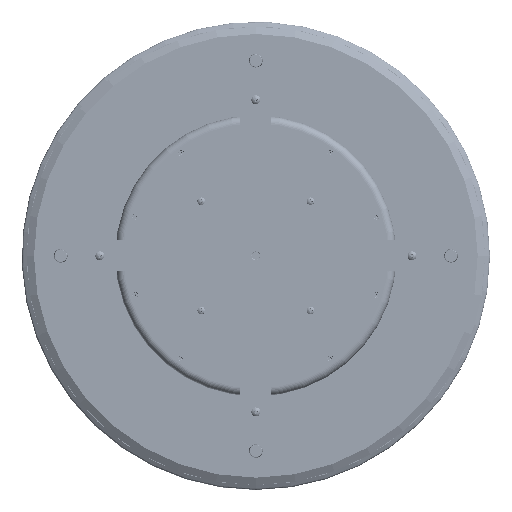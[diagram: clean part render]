
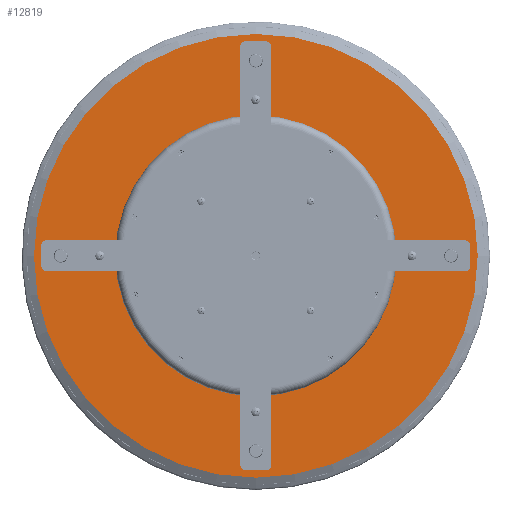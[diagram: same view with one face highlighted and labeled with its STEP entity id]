
A CAD part, front view. The second image highlights one B-rep face of the part: STEP entity #12819.
In plain terms, the highlighted planar face has unit normal (0, -1, 0).
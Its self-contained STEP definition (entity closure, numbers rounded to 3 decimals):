
#1649=CIRCLE('',#14911,14.213);
#2653=FACE_OUTER_BOUND('',#3523,.T.);
#3523=EDGE_LOOP('',(#11233));
#6263=VERTEX_POINT('',#35273);
#7953=EDGE_CURVE('',#6263,#6263,#1649,.T.);
#11233=ORIENTED_EDGE('',*,*,#7953,.T.);
#12138=PLANE('',#14914);
#12819=ADVANCED_FACE('',(#2653),#12138,.F.);
#14911=AXIS2_PLACEMENT_3D('',#35274,#18157,#18158);
#14914=AXIS2_PLACEMENT_3D('',#35279,#18164,#18165);
#18157=DIRECTION('center_axis',(0.,-1.,0.));
#18158=DIRECTION('ref_axis',(0.,0.,1.));
#18164=DIRECTION('center_axis',(0.,1.,0.));
#18165=DIRECTION('ref_axis',(0.,0.,1.));
#35273=CARTESIAN_POINT('',(0.,0.,
-14.213));
#35274=CARTESIAN_POINT('Origin',(0.,0.,0.));
#35279=CARTESIAN_POINT('Origin',(0.,0.,0.));
